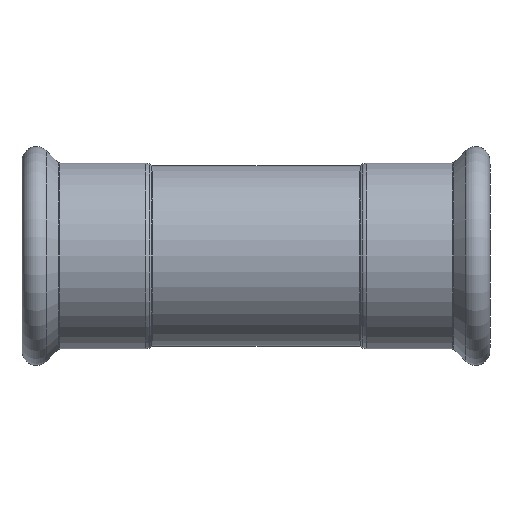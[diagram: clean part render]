
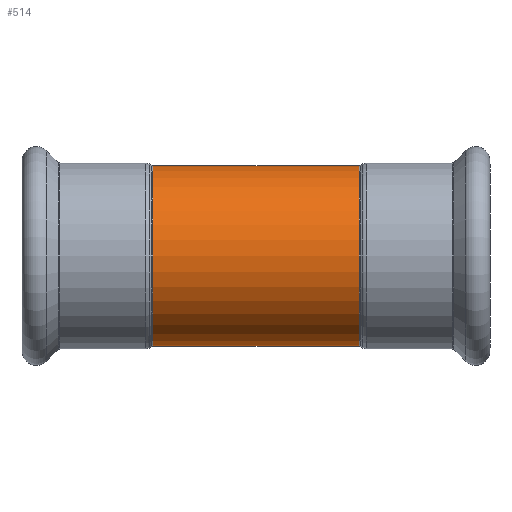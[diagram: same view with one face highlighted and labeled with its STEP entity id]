
A CAD part, front view. The second image highlights one B-rep face of the part: STEP entity #514.
In plain terms, the highlighted cylindrical face has radius 22 mm (diameter 44 mm), a partial arc.
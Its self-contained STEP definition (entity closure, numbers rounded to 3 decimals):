
#57 = VERTEX_POINT ( 'NONE', #1821 ) ;
#162 = DIRECTION ( 'NONE',  ( -1., 0., 0. ) ) ;
#294 = EDGE_CURVE ( 'NONE', #1802, #57, #3362, .T. ) ;
#406 = ORIENTED_EDGE ( 'NONE', *, *, #1755, .F. ) ;
#438 = VECTOR ( 'NONE', #1565, 1000. ) ;
#447 = EDGE_CURVE ( 'NONE', #3237, #1802, #2397, .T. ) ;
#473 = CARTESIAN_POINT ( 'NONE',  ( -25.154, 0., 0. ) ) ;
#509 = DIRECTION ( 'NONE',  ( 0., 0., 1. ) ) ;
#514 = ADVANCED_FACE ( 'NONE', ( #3568 ), #2024, .T. ) ;
#515 = CARTESIAN_POINT ( 'NONE',  ( 25.154, 0., 22. ) ) ;
#801 = DIRECTION ( 'NONE',  ( 0., 0., 1. ) ) ;
#1114 = DIRECTION ( 'NONE',  ( -1., 0., 0. ) ) ;
#1471 = DIRECTION ( 'NONE',  ( -1., 0., 0. ) ) ;
#1484 = CIRCLE ( 'NONE', #4075, 22. ) ;
#1565 = DIRECTION ( 'NONE',  ( -1., 0., 0. ) ) ;
#1743 = LINE ( 'NONE', #3538, #438 ) ;
#1755 = EDGE_CURVE ( 'NONE', #1988, #57, #1484, .T. ) ;
#1802 = VERTEX_POINT ( 'NONE', #515 ) ;
#1821 = CARTESIAN_POINT ( 'NONE',  ( -25.154, 0., 22. ) ) ;
#1988 = VERTEX_POINT ( 'NONE', #4156 ) ;
#1994 = DIRECTION ( 'NONE',  ( -1., 0., 0. ) ) ;
#2024 = CYLINDRICAL_SURFACE ( 'NONE', #2886, 22. ) ;
#2172 = CARTESIAN_POINT ( 'NONE',  ( 27.146, 0., 0. ) ) ;
#2297 = ORIENTED_EDGE ( 'NONE', *, *, #447, .T. ) ;
#2397 = CIRCLE ( 'NONE', #2601, 22. ) ;
#2439 = DIRECTION ( 'NONE',  ( 0., 0., 1. ) ) ;
#2601 = AXIS2_PLACEMENT_3D ( 'NONE', #2816, #1471, #801 ) ;
#2816 = CARTESIAN_POINT ( 'NONE',  ( 25.154, 0., 0. ) ) ;
#2886 = AXIS2_PLACEMENT_3D ( 'NONE', #2172, #162, #509 ) ;
#2990 = CARTESIAN_POINT ( 'NONE',  ( 27.146, 0., 22. ) ) ;
#3237 = VERTEX_POINT ( 'NONE', #3582 ) ;
#3250 = EDGE_LOOP ( 'NONE', ( #3667, #2297, #3798, #406 ) ) ;
#3362 = LINE ( 'NONE', #2990, #3454 ) ;
#3365 = EDGE_CURVE ( 'NONE', #3237, #1988, #1743, .T. ) ;
#3454 = VECTOR ( 'NONE', #1994, 1000. ) ;
#3538 = CARTESIAN_POINT ( 'NONE',  ( 27.146, 0., -22. ) ) ;
#3568 = FACE_OUTER_BOUND ( 'NONE', #3250, .T. ) ;
#3582 = CARTESIAN_POINT ( 'NONE',  ( 25.154, 0., -22. ) ) ;
#3667 = ORIENTED_EDGE ( 'NONE', *, *, #3365, .F. ) ;
#3798 = ORIENTED_EDGE ( 'NONE', *, *, #294, .T. ) ;
#4075 = AXIS2_PLACEMENT_3D ( 'NONE', #473, #1114, #2439 ) ;
#4156 = CARTESIAN_POINT ( 'NONE',  ( -25.154, 0., -22. ) ) ;
